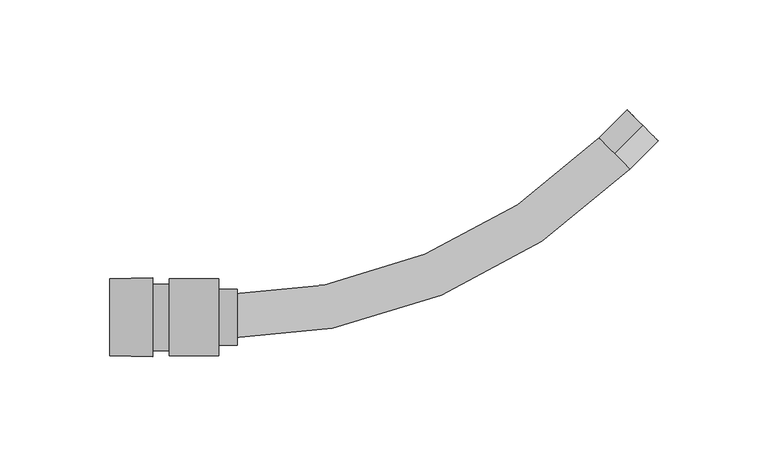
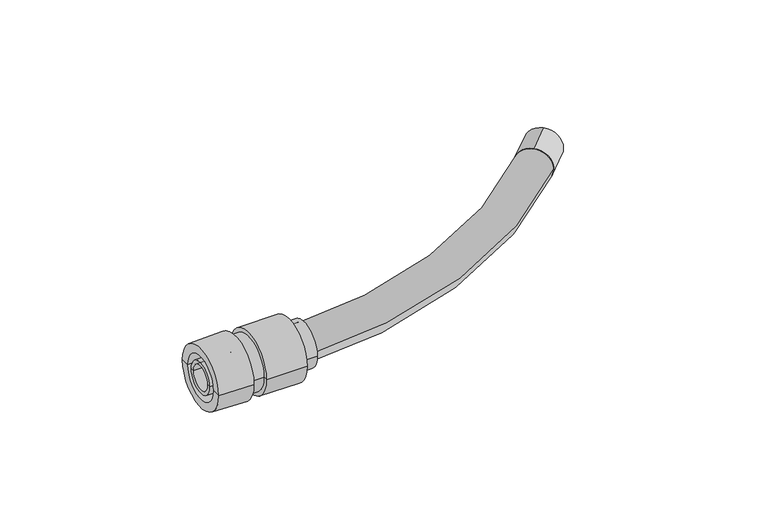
"""IFC4 building model written with IfcOpenShell, lengths in millimetres: cable carrier fitting geometry, КНС_МуфтаГибкаяТрубаКоробка_IP65_DKC : Коробка."""

from ifc_helpers import new_model, si_unit, point, frame, frame_2d, origin, place, context, project, spatial, polyline, circle_curve, ellipse_curve, trimmed, segment, composite_curve, outline, extrude, source, transform, mapped, element, save
from ifc_brep_helpers import plane_surface, cylinder_surface, revolved_surface, advanced_brep


def cable_carrier_fitting_8029289c(model_context):
    return source(origin(), model_context, "Body", "SolidModel", [
        advanced_brep(
        [(-96.9786175, -10.6353846, 0.0), (-96.9786175, 10.6353846, 0.0), (-135.4786175, 10.6353846, 0.0), (-135.4786175, -10.6353846, 0.0), (-96.9786175, -12.7, 0.0), (-96.9786175, 12.7, 0.0), (-105.4786175, -12.7, 0.0), (-105.4786175, 12.7, 0.0), (-105.4786175, -17.5, 0.0), (-105.4786175, 17.5, 0.0), (-127.9786175, -17.5, 0.0), (-127.9786175, 17.5, 0.0), (-127.9786175, -15.1, 0.0), (-127.9786175, 15.1, 0.0), (-135.4786175, -15.1, 0.0), (-135.4786175, 15.1, 0.0)],
        [
            (0, 1, circle_curve(frame((-96.9786175, 0.0, 0.0), z_axis=(1.0, 0.0, 0.0), x_axis=(0.0, 1.0, 0.0)), 10.6353846)),
            (1, 2),
            (2, 3, circle_curve(frame((-135.4786175, 0.0, 0.0), z_axis=(-1.0, 0.0, 0.0), x_axis=(0.0, 1.0, 0.0)), 10.6353846)),
            (3, 0),
            (1, 0, circle_curve(frame((-96.9786175, 0.0, 0.0), z_axis=(1.0, 0.0, 0.0), x_axis=(0.0, 1.0, 0.0)), 10.6353846)),
            (3, 2, circle_curve(frame((-135.4786175, 0.0, 0.0), z_axis=(-1.0, 0.0, 0.0), x_axis=(0.0, 1.0, 0.0)), 10.6353846)),
            (4, 5, circle_curve(frame((-96.9786175, 0.0, 0.0), z_axis=(1.0, 0.0, 0.0), x_axis=(0.0, 1.0, 0.0)), 12.7)),
            (5, 1),
            (0, 4),
            (5, 4, circle_curve(frame((-96.9786175, 0.0, 0.0), z_axis=(1.0, 0.0, 0.0), x_axis=(0.0, 1.0, 0.0)), 12.7)),
            (6, 7, circle_curve(frame((-105.4786175, 0.0, 0.0), z_axis=(1.0, 0.0, 0.0), x_axis=(0.0, 1.0, 0.0)), 12.7)),
            (7, 5),
            (4, 6),
            (7, 6, circle_curve(frame((-105.4786175, 0.0, 0.0), z_axis=(1.0, 0.0, 0.0), x_axis=(0.0, 1.0, 0.0)), 12.7)),
            (8, 9, circle_curve(frame((-105.4786175, 0.0, 0.0), z_axis=(1.0, 0.0, 0.0), x_axis=(0.0, 1.0, 0.0)), 17.5)),
            (9, 7),
            (6, 8),
            (9, 8, circle_curve(frame((-105.4786175, 0.0, 0.0), z_axis=(1.0, 0.0, 0.0), x_axis=(0.0, 1.0, 0.0)), 17.5)),
            (10, 11, circle_curve(frame((-127.9786175, 0.0, 0.0), z_axis=(1.0, 0.0, 0.0), x_axis=(0.0, 1.0, 0.0)), 17.5)),
            (11, 9),
            (8, 10),
            (11, 10, circle_curve(frame((-127.9786175, 0.0, 0.0), z_axis=(1.0, 0.0, 0.0), x_axis=(0.0, 1.0, 0.0)), 17.5)),
            (12, 13, circle_curve(frame((-127.9786175, 0.0, 0.0), z_axis=(1.0, 0.0, 0.0), x_axis=(0.0, 1.0, 0.0)), 15.1)),
            (13, 11),
            (10, 12),
            (13, 12, circle_curve(frame((-127.9786175, 0.0, 0.0), z_axis=(1.0, 0.0, 0.0), x_axis=(0.0, 1.0, 0.0)), 15.1)),
            (14, 15, circle_curve(frame((-135.4786175, 0.0, 0.0), z_axis=(1.0, 0.0, 0.0), x_axis=(0.0, 1.0, 0.0)), 15.1)),
            (15, 13),
            (12, 14),
            (15, 14, circle_curve(frame((-135.4786175, 0.0, 0.0), z_axis=(1.0, 0.0, 0.0), x_axis=(0.0, 1.0, 0.0)), 15.1)),
            (2, 15),
            (14, 3),
        ],
        [
            revolved_surface(polyline([(-135.47861749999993, 10.6353846, 0.0), (-96.97861749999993, 10.6353846, 0.0)]), (1391.5213825, 0.0, 0.0), (-1.0, 0.0, 0.0)),
            plane_surface(frame((-96.9786175, 0.0, 0.0), z_axis=(1.0, 0.0, 0.0), x_axis=(0.0, 1.0, 0.0))),
            cylinder_surface(frame((1391.5213825, 0.0, 0.0), z_axis=(-1.0, 0.0, 0.0), x_axis=(0.0, 1.0, 0.0)), 12.7),
            plane_surface(frame((-105.4786175, 0.0, 0.0), z_axis=(1.0, 0.0, 0.0), x_axis=(0.0, 1.0, 0.0))),
            cylinder_surface(frame((1391.5213825, 0.0, 0.0), z_axis=(-1.0, 0.0, 0.0), x_axis=(0.0, 1.0, 0.0)), 17.5),
            plane_surface(frame((-127.9786175, 0.0, 0.0), z_axis=(-1.0, 0.0, 0.0), x_axis=(0.0, 1.0, 0.0))),
            cylinder_surface(frame((1391.5213825, 0.0, 0.0), z_axis=(-1.0, 0.0, 0.0), x_axis=(0.0, 1.0, 0.0)), 15.1),
            plane_surface(frame((-135.4786175, 0.0, 0.0), z_axis=(-1.0, 0.0, 0.0), x_axis=(0.0, 1.0, 0.0))),
        ],
        [
            (0, [[1, 2, 3, 4]]),
            (0, [[5, -4, 6, -2]]),
            (1, [[7, 8, -1, 9]]),
            (1, [[10, -9, -5, -8]]),
            (2, [[11, 12, -7, 13]]),
            (2, [[14, -13, -10, -12]]),
            (3, [[15, 16, -11, 17]]),
            (3, [[18, -17, -14, -16]]),
            (4, [[19, 20, -15, 21]]),
            (4, [[22, -21, -18, -20]]),
            (5, [[23, 24, -19, 25]]),
            (5, [[26, -25, -22, -24]]),
            (6, [[27, 28, -23, 29]]),
            (6, [[30, -29, -26, -28]]),
            (7, [[-3, 31, -27, 32]]),
            (7, [[-6, -32, -30, -31]]),
        ],
    ),
        advanced_brep(
        [(-135.4786175, -18.0, 0.0), (-135.4786175, 18.0, 0.0), (-135.4786175, 12.7, 0.0), (-135.4786175, -12.7, 0.0), (-154.9786175, -17.5, 0.0), (-154.9786175, 17.5, 0.0), (-154.9786175, -12.7, 0.0), (-154.9786175, 12.7, 0.0)],
        [
            (0, 1, circle_curve(frame((-135.4786175, 0.0, 0.0), z_axis=(1.0, 0.0, 0.0), x_axis=(0.0, 1.0, 0.0)), 18.0)),
            (1, 2),
            (2, 3, circle_curve(frame((-135.4786175, 0.0, 0.0), z_axis=(-1.0, 0.0, 0.0), x_axis=(0.0, 1.0, 0.0)), 12.7)),
            (3, 0),
            (1, 0, circle_curve(frame((-135.4786175, 0.0, 0.0), z_axis=(1.0, 0.0, 0.0), x_axis=(0.0, 1.0, 0.0)), 18.0)),
            (3, 2, circle_curve(frame((-135.4786175, 0.0, 0.0), z_axis=(-1.0, 0.0, 0.0), x_axis=(0.0, 1.0, 0.0)), 12.7)),
            (4, 5, circle_curve(frame((-154.9786175, 0.0, 0.0), z_axis=(1.0, 0.0, 0.0), x_axis=(0.0, 1.0, 0.0)), 17.5)),
            (5, 1),
            (0, 4),
            (5, 4, circle_curve(frame((-154.9786175, 0.0, 0.0), z_axis=(1.0, 0.0, 0.0), x_axis=(0.0, 1.0, 0.0)), 17.5)),
            (6, 7, circle_curve(frame((-154.9786175, 0.0, 0.0), z_axis=(1.0, 0.0, 0.0), x_axis=(0.0, 1.0, 0.0)), 12.7)),
            (7, 5),
            (4, 6),
            (7, 6, circle_curve(frame((-154.9786175, 0.0, 0.0), z_axis=(1.0, 0.0, 0.0), x_axis=(0.0, 1.0, 0.0)), 12.7)),
            (2, 7),
            (6, 3),
        ],
        [
            plane_surface(frame((-135.4786175, 0.0, 0.0), z_axis=(1.0, 0.0, 0.0), x_axis=(0.0, 1.0, 0.0))),
            revolved_surface(polyline([(-135.4786175, 18.0, 0.0), (-154.9786175, 17.5, 0.0)]), (1391.5213825, 0.0, 0.0), (-1.0, 0.0, 0.0)),
            plane_surface(frame((-154.9786175, 0.0, 0.0), z_axis=(-1.0, 0.0, 0.0), x_axis=(0.0, 1.0, 0.0))),
            revolved_surface(polyline([(-154.97861749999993, 12.7, 0.0), (-135.47861749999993, 12.7, 0.0)]), (1391.5213825, 0.0, 0.0), (-1.0, 0.0, 0.0)),
        ],
        [
            (0, [[1, 2, 3, 4]]),
            (0, [[5, -4, 6, -2]]),
            (1, [[7, 8, -1, 9]]),
            (1, [[10, -9, -5, -8]]),
            (2, [[11, 12, -7, 13]]),
            (2, [[14, -13, -10, -12]]),
            (3, [[-3, 15, -11, 16]]),
            (3, [[-6, -16, -14, -15]]),
        ],
    ),
        advanced_brep(
        [(-154.9786175, -9.0, 0.0), (-154.9786175, 9.0, 0.0), (-135.4786175, 9.0, 0.0), (-135.4786175, -9.0, 0.0), (-154.9786175, -7.0, 0.0), (-154.9786175, 7.0, 0.0), (-135.4786175, -7.0, 0.0), (-135.4786175, 7.0, 0.0)],
        [
            (0, 1, circle_curve(frame((-154.9786175, 0.0, 0.0), z_axis=(1.0, 0.0, 0.0), x_axis=(0.0, 1.0, 0.0)), 9.0)),
            (1, 2),
            (2, 3, circle_curve(frame((-135.4786175, 0.0, 0.0), z_axis=(-1.0, 0.0, 0.0), x_axis=(0.0, 1.0, 0.0)), 9.0)),
            (3, 0),
            (1, 0, circle_curve(frame((-154.9786175, 0.0, 0.0), z_axis=(1.0, 0.0, 0.0), x_axis=(0.0, 1.0, 0.0)), 9.0)),
            (3, 2, circle_curve(frame((-135.4786175, 0.0, 0.0), z_axis=(-1.0, 0.0, 0.0), x_axis=(0.0, 1.0, 0.0)), 9.0)),
            (4, 5, circle_curve(frame((-154.9786175, 0.0, 0.0), z_axis=(1.0, 0.0, 0.0), x_axis=(0.0, 1.0, 0.0)), 7.0)),
            (5, 1),
            (0, 4),
            (5, 4, circle_curve(frame((-154.9786175, 0.0, 0.0), z_axis=(1.0, 0.0, 0.0), x_axis=(0.0, 1.0, 0.0)), 7.0)),
            (6, 7, circle_curve(frame((-135.4786175, 0.0, 0.0), z_axis=(1.0, 0.0, 0.0), x_axis=(0.0, 1.0, 0.0)), 7.0)),
            (7, 5),
            (4, 6),
            (7, 6, circle_curve(frame((-135.4786175, 0.0, 0.0), z_axis=(1.0, 0.0, 0.0), x_axis=(0.0, 1.0, 0.0)), 7.0)),
            (2, 7),
            (6, 3),
        ],
        [
            cylinder_surface(frame((1391.5213825, 0.0, 0.0), z_axis=(-1.0, 0.0, 0.0), x_axis=(0.0, 1.0, 0.0)), 9.0),
            plane_surface(frame((-154.9786175, 0.0, 0.0), z_axis=(-1.0, 0.0, 0.0), x_axis=(0.0, 1.0, 0.0))),
            revolved_surface(polyline([(-154.97861749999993, 7.0, 0.0), (-135.47861749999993, 7.0, 0.0)]), (1391.5213825, 0.0, 0.0), (-1.0, 0.0, 0.0)),
            plane_surface(frame((-135.4786175, 0.0, 0.0), z_axis=(1.0, 0.0, 0.0), x_axis=(0.0, 1.0, 0.0))),
        ],
        [
            (0, [[1, 2, 3, 4]]),
            (0, [[5, -4, 6, -2]]),
            (1, [[7, 8, -1, 9]]),
            (1, [[10, -9, -5, -8]]),
            (2, [[11, 12, -7, 13]]),
            (2, [[14, -13, -10, -12]]),
            (3, [[-3, 15, -11, 16]]),
            (3, [[-6, -16, -14, -15]]),
        ],
    ),
        extrude(outline(composite_curve([segment(trimmed(circle_curve(frame_2d((0.0, -10.0)), 10.0), [point((0.0, -20.0))], [point((0.0, 0.0))], False, "CARTESIAN"), True, "CONTINUOUS"), segment(trimmed(circle_curve(frame_2d((0.0, -10.0)), 10.0), [point((0.0, 0.0))], [point((0.0, -20.0))], False, "CARTESIAN"), True, "CONTINUOUS")], self_intersect=False), holes=[composite_curve([segment(trimmed(circle_curve(frame_2d((0.0, -10.0)), 9.0), [point((0.0, -19.0))], [point((0.0, -1.0))], True, "CARTESIAN"), True, "CONTINUOUS"), segment(trimmed(circle_curve(frame_2d((0.0, -10.0)), 9.0), [point((0.0, -1.0))], [point((0.0, -19.0))], True, "CARTESIAN"), True, "CONTINUOUS")], self_intersect=False)]), frame((74.5846457, 74.5846457, 10.0), z_axis=(0.707106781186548, 0.7071067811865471, 0.0), x_axis=(-0.7071067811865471, 0.707106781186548, 0.0)), (0.0, 0.0, 1.0), 18.0),
        advanced_brep(
        [(67.5135779, 81.6557135, 0.0), (81.6557135, 67.5135779, 0.0), (-105.4786175, 10.0, 0.0), (-105.4786175, -10.0, 0.0)],
        [
            (0, 1, circle_curve(frame((74.5846457, 74.5846457, 0.0), z_axis=(0.7071067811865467, 0.7071067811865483, 0.0), x_axis=(0.7071067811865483, -0.7071067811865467, 0.0)), 10.0)),
            (1, 0, circle_curve(frame((74.5846457, 74.5846457, 0.0), z_axis=(0.7071067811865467, 0.7071067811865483, 0.0), x_axis=(0.7071067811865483, -0.7071067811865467, 0.0)), 10.0)),
            (2, 3, circle_curve(frame((-105.4786175, 0.0, 0.0), z_axis=(-1.0, 0.0, 0.0), x_axis=(0.0, -1.0, 0.0)), 10.0)),
            (3, 2, circle_curve(frame((-105.4786175, 0.0, 0.0), z_axis=(-1.0, 0.0, 0.0), x_axis=(0.0, -1.0, 0.0)), 10.0)),
            (3, 1, circle_curve(frame((-105.4786175, 254.6479089, 0.0), z_axis=(0.0, 0.0, 1.0), x_axis=(0.7071067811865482, -0.7071067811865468, 0.0)), 264.6479089)),
            (0, 2, circle_curve(frame((-105.4786175, 254.6479089, 0.0), z_axis=(0.0, 0.0, -1.0), x_axis=(0.7071067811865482, -0.7071067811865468, 0.0)), 244.6479089)),
        ],
        [
            plane_surface(frame((74.5846457, 74.5846457, 0.0), z_axis=(0.7071067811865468, 0.7071067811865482, 0.0), x_axis=(0.0, 0.0, 1.0))),
            plane_surface(frame((-105.4786175, 0.0, 0.0), z_axis=(-1.0, 0.0, 0.0), x_axis=(0.0, 0.0, 1.0))),
            revolved_surface(trimmed(ellipse_curve(frame((74.5846457, 74.5846457, 0.0), z_axis=(0.7071067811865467, 0.7071067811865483, 0.0), x_axis=(0.7071067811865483, -0.7071067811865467, 0.0)), 10.0, 10.0), [point((67.5135779, 81.6557135, 0.0))], [point((81.6557135, 67.5135779, 0.0))], True, "CARTESIAN"), (-105.4786175, 254.6479089, 0.0), (0.0, 0.0, -1.0)),
            revolved_surface(trimmed(ellipse_curve(frame((74.5846457, 74.5846457, 0.0), z_axis=(0.7071067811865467, 0.7071067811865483, 0.0), x_axis=(0.7071067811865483, -0.7071067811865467, 0.0)), 10.0, 10.0), [point((81.6557135, 67.5135779, 0.0))], [point((67.5135779, 81.6557135, 0.0))], True, "CARTESIAN"), (-105.4786175, 254.6479089, 0.0), (0.0, 0.0, -1.0)),
        ],
        [
            (0, [[1, 2]]),
            (1, [[3, 4]]),
            (2, [[5, -1, 6, -4]]),
            (3, [[-6, -2, -5, -3]]),
        ],
    ),
    ])


if __name__ == "__main__":
    model = new_model("IFC4")
    model_context = context("Model", 3, world=origin())
    ifc_project = project(units=[si_unit("LENGTHUNIT", "METRE", prefix="MILLI")], contexts=[model_context])
    site = spatial("IfcSite", under=ifc_project)
    building = spatial("IfcBuilding", under=site)
    placement = place(None, origin())
    cable_carrier_fitting_shape = cable_carrier_fitting_8029289c(model_context)
    element("IfcCableCarrierFitting", 1, ObjectType="КНС_МуфтаГибкаяТрубаКоробка_IP65_DKC : Коробка", at=placement, inside=building, context=model_context, shape_type="MappedRepresentation", body=[
        mapped(cable_carrier_fitting_shape, transform((0.0, 0.0, 0.0), x_axis=(1.0, 0.0, 0.0), y_axis=(0.0, 1.0, 0.0), z_axis=(0.0, 0.0, 1.0))),
    ])
    save(model, "model.ifc")
